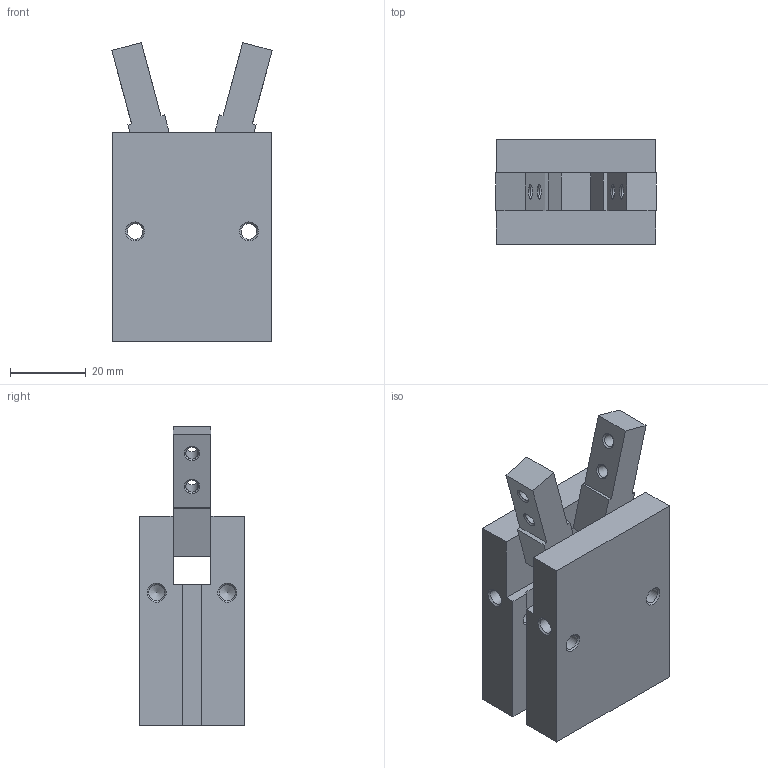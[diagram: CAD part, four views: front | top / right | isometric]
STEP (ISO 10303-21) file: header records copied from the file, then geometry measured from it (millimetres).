
FILE_DESCRIPTION(/* description */ ('STEP AP214'),/* implementation_level */ '2;1');
FILE_NAME(/* name */ 'MHC2-20S(30_0)',/* time_stamp */ '2025-09-11T08:07:25+02:00',/* author */ ('License CC BY-ND 4.0'),/* organization */ ('CADENAS'),/* preprocessor_version */ 'ST-DEVELOPER v19.3',/* originating_system */ 'PARTsolutions',/* authorisation */ ' ');
FILE_SCHEMA (('AUTOMOTIVE_DESIGN {1 0 10303 214 3 1 1}'));
Length unit declared in the file: millimetre
Products named in the file (3): MHC2-20S(30_0); MHC2-20S(0)_BODY; MHC2-20(0)_FINGER
Assembly tree (3 placements, depth 2):
  MHC2-20S(30_0)
    MHC2-20S(0)_BODY
    MHC2-20(0)_FINGER  x2
Bounding box: 42.22 x 27.6 x 78.78 mm (x, y, z)
Volume: 56564.3 mm3; surface area: 17045 mm2
Topology: 3 solids, 3 shells, 103 faces, 266 edges, 172 vertices
Faces by surface type: plane 57, cylinder 24, cone 22
Full cylindrical faces by diameter (mm): 3.242 x4, 4 x6, 4.134 x9, 4.3 x4, 21 x1
Entity records: 2450 total; most frequent: DIRECTION 418, CARTESIAN_POINT 397, ORIENTED_EDGE 342, EDGE_CURVE 171, AXIS2_PLACEMENT_3D 157, FACE_BOUND 151, EDGE_LOOP 146, VERTEX_POINT 136
